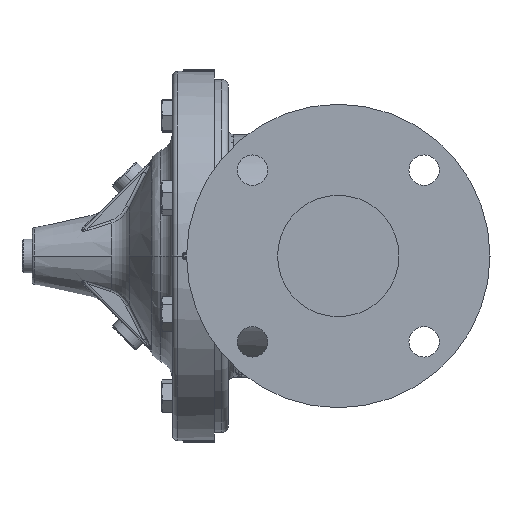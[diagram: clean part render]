
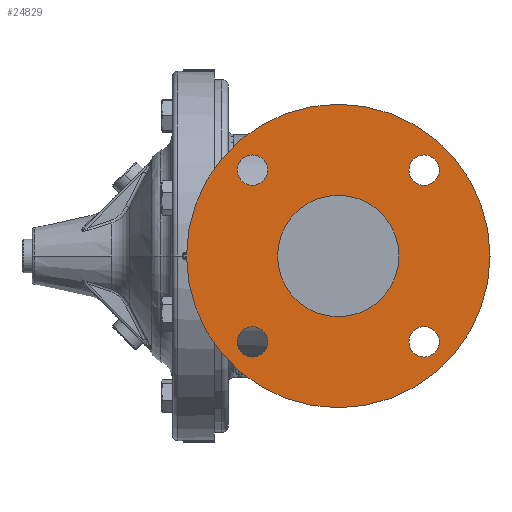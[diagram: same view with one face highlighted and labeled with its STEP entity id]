
A CAD part, left-side view. The second image highlights one B-rep face of the part: STEP entity #24829.
In plain terms, the highlighted planar face has unit normal (-1, 0, 0).
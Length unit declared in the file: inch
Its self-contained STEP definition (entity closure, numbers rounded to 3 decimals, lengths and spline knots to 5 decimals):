
#12 = EDGE_CURVE ( 'NONE', #20143, #27784, #11570, .T. ) ;
#76 = CARTESIAN_POINT ( 'NONE',  ( -6., 0., -3.75 ) ) ;
#207 = CIRCLE ( 'NONE', #20026, 3.75 ) ;
#349 = DIRECTION ( 'NONE',  ( 0., 0., -1. ) ) ;
#495 = ORIENTED_EDGE ( 'NONE', *, *, #23017, .F. ) ;
#713 = AXIS2_PLACEMENT_3D ( 'NONE', #18122, #22377, #15866 ) ;
#1006 = ORIENTED_EDGE ( 'NONE', *, *, #5973, .F. ) ;
#1020 = AXIS2_PLACEMENT_3D ( 'NONE', #3739, #17890, #3608 ) ;
#1195 = DIRECTION ( 'NONE',  ( -1., 0., 0. ) ) ;
#1231 = ORIENTED_EDGE ( 'NONE', *, *, #3421, .F. ) ;
#1364 = DIRECTION ( 'NONE',  ( 0., 1., 0. ) ) ;
#1514 = FACE_OUTER_BOUND ( 'NONE', #27070, .T. ) ;
#1668 = CARTESIAN_POINT ( 'NONE',  ( -6., -2.49632, -2.12132 ) ) ;
#1705 = EDGE_CURVE ( 'NONE', #5906, #1706, #207, .T. ) ;
#1706 = VERTEX_POINT ( 'NONE', #15413 ) ;
#1754 = CARTESIAN_POINT ( 'NONE',  ( -6., 1.5, 0. ) ) ;
#1757 = AXIS2_PLACEMENT_3D ( 'NONE', #12374, #7429, #12235 ) ;
#2075 = AXIS2_PLACEMENT_3D ( 'NONE', #11027, #21500, #8768 ) ;
#2403 = DIRECTION ( 'NONE',  ( 0., -1., 0. ) ) ;
#2848 = DIRECTION ( 'NONE',  ( 0., 0., 1. ) ) ;
#2903 = ORIENTED_EDGE ( 'NONE', *, *, #4147, .T. ) ;
#2961 = CIRCLE ( 'NONE', #713, 0.375 ) ;
#2965 = VERTEX_POINT ( 'NONE', #6730 ) ;
#3070 = EDGE_CURVE ( 'NONE', #26877, #7875, #3894, .T. ) ;
#3349 = ORIENTED_EDGE ( 'NONE', *, *, #1705, .T. ) ;
#3421 = EDGE_CURVE ( 'NONE', #7875, #26877, #24617, .T. ) ;
#3608 = DIRECTION ( 'NONE',  ( 0., 0., -1. ) ) ;
#3739 = CARTESIAN_POINT ( 'NONE',  ( -6., -2.12132, 2.12132 ) ) ;
#3894 = CIRCLE ( 'NONE', #4776, 0.375 ) ;
#4147 = EDGE_CURVE ( 'NONE', #1706, #5906, #10206, .T. ) ;
#4767 = ORIENTED_EDGE ( 'NONE', *, *, #12, .F. ) ;
#4776 = AXIS2_PLACEMENT_3D ( 'NONE', #9534, #9818, #1364 ) ;
#4861 = CIRCLE ( 'NONE', #26054, 0.375 ) ;
#5104 = ORIENTED_EDGE ( 'NONE', *, *, #3070, .F. ) ;
#5595 = FACE_BOUND ( 'NONE', #8743, .T. ) ;
#5598 = ORIENTED_EDGE ( 'NONE', *, *, #12399, .F. ) ;
#5906 = VERTEX_POINT ( 'NONE', #76 ) ;
#5973 = EDGE_CURVE ( 'NONE', #13653, #8528, #2961, .T. ) ;
#6267 = CARTESIAN_POINT ( 'NONE',  ( -6., 1.74632, 2.12132 ) ) ;
#6730 = CARTESIAN_POINT ( 'NONE',  ( -6., 2.12132, -1.74632 ) ) ;
#7413 = CARTESIAN_POINT ( 'NONE',  ( -6., 0., 0. ) ) ;
#7429 = DIRECTION ( 'NONE',  ( -1., 0., 0. ) ) ;
#7875 = VERTEX_POINT ( 'NONE', #23327 ) ;
#8000 = FACE_BOUND ( 'NONE', #10045, .T. ) ;
#8399 = CIRCLE ( 'NONE', #16053, 0.375 ) ;
#8452 = CIRCLE ( 'NONE', #18359, 0.375 ) ;
#8528 = VERTEX_POINT ( 'NONE', #9565 ) ;
#8743 = EDGE_LOOP ( 'NONE', ( #5104, #1231 ) ) ;
#8768 = DIRECTION ( 'NONE',  ( 0., 1., 0. ) ) ;
#8809 = DIRECTION ( 'NONE',  ( 0., 0., 1. ) ) ;
#8954 = DIRECTION ( 'NONE',  ( -1., 0., 0. ) ) ;
#9022 = DIRECTION ( 'NONE',  ( -1., 0., 0. ) ) ;
#9534 = CARTESIAN_POINT ( 'NONE',  ( -6., -2.12132, -2.12132 ) ) ;
#9565 = CARTESIAN_POINT ( 'NONE',  ( -6., 2.49632, 2.12132 ) ) ;
#9692 = FACE_BOUND ( 'NONE', #25292, .T. ) ;
#9796 = DIRECTION ( 'NONE',  ( 0., 0., 1. ) ) ;
#9818 = DIRECTION ( 'NONE',  ( -1., 0., 0. ) ) ;
#9928 = DIRECTION ( 'NONE',  ( 0., 0., 1. ) ) ;
#10045 = EDGE_LOOP ( 'NONE', ( #20641, #13200 ) ) ;
#10206 = CIRCLE ( 'NONE', #25095, 3.75 ) ;
#10931 = CARTESIAN_POINT ( 'NONE',  ( -6., 0., 0. ) ) ;
#11027 = CARTESIAN_POINT ( 'NONE',  ( -6., -2.12132, -2.12132 ) ) ;
#11044 = EDGE_CURVE ( 'NONE', #22234, #23240, #8452, .T. ) ;
#11570 = CIRCLE ( 'NONE', #25115, 1.5 ) ;
#11952 = FACE_BOUND ( 'NONE', #16152, .T. ) ;
#12189 = CARTESIAN_POINT ( 'NONE',  ( -6., 2.12132, -2.12132 ) ) ;
#12235 = DIRECTION ( 'NONE',  ( 0., -1., 0. ) ) ;
#12374 = CARTESIAN_POINT ( 'NONE',  ( -6., 0., 0. ) ) ;
#12399 = EDGE_CURVE ( 'NONE', #2965, #17523, #16132, .T. ) ;
#13200 = ORIENTED_EDGE ( 'NONE', *, *, #13519, .F. ) ;
#13519 = EDGE_CURVE ( 'NONE', #23240, #22234, #17677, .T. ) ;
#13653 = VERTEX_POINT ( 'NONE', #6267 ) ;
#13759 = AXIS2_PLACEMENT_3D ( 'NONE', #7413, #19982, #24659 ) ;
#15413 = CARTESIAN_POINT ( 'NONE',  ( -6., 0., 3.75 ) ) ;
#15709 = CARTESIAN_POINT ( 'NONE',  ( -6., -2.12132, 2.49632 ) ) ;
#15866 = DIRECTION ( 'NONE',  ( 0., -1., 0. ) ) ;
#16053 = AXIS2_PLACEMENT_3D ( 'NONE', #17211, #9022, #2403 ) ;
#16132 = CIRCLE ( 'NONE', #27432, 0.375 ) ;
#16152 = EDGE_LOOP ( 'NONE', ( #1006, #16229 ) ) ;
#16229 = ORIENTED_EDGE ( 'NONE', *, *, #19208, .F. ) ;
#16404 = DIRECTION ( 'NONE',  ( -1., 0., 0. ) ) ;
#16444 = CIRCLE ( 'NONE', #13759, 1.5 ) ;
#17211 = CARTESIAN_POINT ( 'NONE',  ( -6., 2.12132, 2.12132 ) ) ;
#17307 = CARTESIAN_POINT ( 'NONE',  ( -6., 0., 0. ) ) ;
#17523 = VERTEX_POINT ( 'NONE', #27121 ) ;
#17677 = CIRCLE ( 'NONE', #1020, 0.375 ) ;
#17890 = DIRECTION ( 'NONE',  ( -1., 0., 0. ) ) ;
#18122 = CARTESIAN_POINT ( 'NONE',  ( -6., 2.12132, 2.12132 ) ) ;
#18359 = AXIS2_PLACEMENT_3D ( 'NONE', #26069, #19951, #349 ) ;
#18580 = FACE_BOUND ( 'NONE', #25769, .T. ) ;
#19208 = EDGE_CURVE ( 'NONE', #8528, #13653, #8399, .T. ) ;
#19850 = EDGE_CURVE ( 'NONE', #27784, #20143, #16444, .T. ) ;
#19951 = DIRECTION ( 'NONE',  ( -1., 0., 0. ) ) ;
#19982 = DIRECTION ( 'NONE',  ( -1., 0., 0. ) ) ;
#20026 = AXIS2_PLACEMENT_3D ( 'NONE', #21774, #24446, #2848 ) ;
#20143 = VERTEX_POINT ( 'NONE', #1754 ) ;
#20273 = ORIENTED_EDGE ( 'NONE', *, *, #19850, .F. ) ;
#20338 = CARTESIAN_POINT ( 'NONE',  ( -6., -2.12132, 1.74632 ) ) ;
#20513 = CARTESIAN_POINT ( 'NONE',  ( -6., 2.12132, -2.12132 ) ) ;
#20641 = ORIENTED_EDGE ( 'NONE', *, *, #11044, .F. ) ;
#20843 = PLANE ( 'NONE',  #1757 ) ;
#21500 = DIRECTION ( 'NONE',  ( -1., 0., 0. ) ) ;
#21774 = CARTESIAN_POINT ( 'NONE',  ( -6., 0., 0. ) ) ;
#22234 = VERTEX_POINT ( 'NONE', #15709 ) ;
#22377 = DIRECTION ( 'NONE',  ( -1., 0., 0. ) ) ;
#22911 = CARTESIAN_POINT ( 'NONE',  ( -6., -1.5, 0. ) ) ;
#23017 = EDGE_CURVE ( 'NONE', #17523, #2965, #4861, .T. ) ;
#23240 = VERTEX_POINT ( 'NONE', #20338 ) ;
#23327 = CARTESIAN_POINT ( 'NONE',  ( -6., -1.74632, -2.12132 ) ) ;
#24446 = DIRECTION ( 'NONE',  ( -1., 0., 0. ) ) ;
#24617 = CIRCLE ( 'NONE', #2075, 0.375 ) ;
#24659 = DIRECTION ( 'NONE',  ( 0., -1., 0. ) ) ;
#24829 = ADVANCED_FACE ( 'NONE', ( #8000, #5595, #9692, #18580, #11952, #1514 ), #20843, .T. ) ;
#25095 = AXIS2_PLACEMENT_3D ( 'NONE', #10931, #8954, #8809 ) ;
#25115 = AXIS2_PLACEMENT_3D ( 'NONE', #17307, #27792, #25805 ) ;
#25292 = EDGE_LOOP ( 'NONE', ( #5598, #495 ) ) ;
#25769 = EDGE_LOOP ( 'NONE', ( #20273, #4767 ) ) ;
#25805 = DIRECTION ( 'NONE',  ( 0., -1., 0. ) ) ;
#26054 = AXIS2_PLACEMENT_3D ( 'NONE', #12189, #16404, #9928 ) ;
#26069 = CARTESIAN_POINT ( 'NONE',  ( -6., -2.12132, 2.12132 ) ) ;
#26877 = VERTEX_POINT ( 'NONE', #1668 ) ;
#27070 = EDGE_LOOP ( 'NONE', ( #2903, #3349 ) ) ;
#27121 = CARTESIAN_POINT ( 'NONE',  ( -6., 2.12132, -2.49632 ) ) ;
#27432 = AXIS2_PLACEMENT_3D ( 'NONE', #20513, #1195, #9796 ) ;
#27784 = VERTEX_POINT ( 'NONE', #22911 ) ;
#27792 = DIRECTION ( 'NONE',  ( -1., 0., 0. ) ) ;
